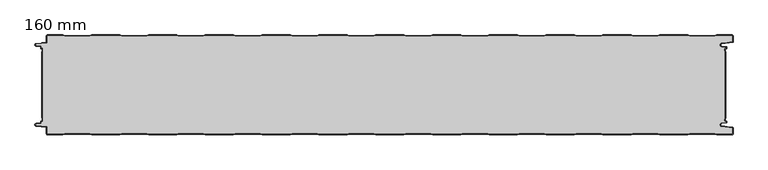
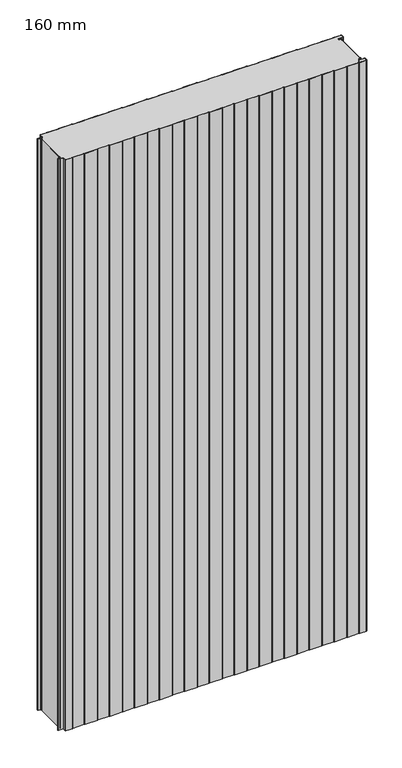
"""IFC4 building model written with IfcOpenShell, lengths in millimetres: plate geometry, HIANSA PANEL - H20.F03.001-PANEL FRIGORÍFICO - PANEL FRIGO - Panel de Muro Cortina : 160 mm."""

from ifc_helpers import new_model, si_unit, point, frame_2d, origin, origin_with_axes, place, context, project, spatial, polyline, circle_curve, trimmed, segment, composite_curve, outline, extrude, source, transform, mapped, element, save


def plate_160_mm_f69a8524(model_context):
    return source(origin(), model_context, "Body", "SweptSolid", [
        extrude(outline(polyline([(555.9827922, -134.0), (555.9827922, -26.0), (556.4221321, -26.6713576), (556.4221321, -133.3286424), (555.9827922, -134.0)])), origin_with_axes(), (0.0, 0.0, 1.0), 2200.0),
        extrude(outline(polyline([(-538.5172078, -26.0), (-538.5172078, -134.0), (-539.1172077, -132.9695032), (-539.1172077, -27.0304968), (-538.5172078, -26.0)])), origin_with_axes(), (0.0, 0.0, 1.0), 2200.0),
        extrude(outline(composite_curve([segment(polyline([(-370.9360691, -1.5), (-411.0983467, -1.5), (-414.0983467, -0.5), (-458.9360691, -0.5), (-461.9360691, -1.5), (-502.0983467, -1.5), (-505.0983467, -0.5), (-529.9172079, -0.5)]), True, "CONTINUOUS"), segment(trimmed(circle_curve(frame_2d((-529.9172079, -1.6)), 1.1), [point((-529.9172079, -0.5))], [point((-531.0172079, -1.6))], True, "CARTESIAN"), True, "CONTINUOUS"), segment(polyline([(-531.0172079, -1.6), (-531.0172079, -11.7987531)]), True, "CONTINUOUS"), segment(trimmed(circle_curve(frame_2d((-532.0172079, -11.7987531)), 1.0), [point((-531.0172079, -11.7987531))], [point((-531.9177042, -12.7937903))], False, "CARTESIAN"), True, "CONTINUOUS"), segment(polyline([(-531.9177042, -12.7937903), (-548.0592062, -14.4079404)]), True, "CONTINUOUS"), segment(trimmed(circle_curve(frame_2d((-547.9000002, -15.9999999)), 1.6), [point((-548.0592062, -14.4079404))], [point((-548.0592062, -17.5920594))], True, "CARTESIAN"), True, "CONTINUOUS"), segment(polyline([(-548.0592062, -17.5920594), (-541.4177042, -18.2562097)]), True, "CONTINUOUS"), segment(trimmed(circle_curve(frame_2d((-541.5172079, -19.2512469)), 1.0), [point((-541.4177042, -18.2562097))], [point((-540.5172079, -19.2512469))], False, "CARTESIAN"), True, "CONTINUOUS"), segment(polyline([(-540.5172079, -19.2512469), (-540.5172079, -21.5), (-539.0172079, -21.5)]), True, "CONTINUOUS"), segment(trimmed(circle_curve(frame_2d((-539.0172079, -22.5)), 1.0), [point((-539.0172079, -21.5))], [point((-538.0172079, -22.5))], False, "CARTESIAN"), True, "CONTINUOUS"), segment(polyline([(-538.0172079, -22.5), (-538.0172079, -25.1412526), (-538.5172079, -26.0), (-538.5172079, -22.0), (-540.0172079, -22.0)]), True, "CONTINUOUS"), segment(trimmed(circle_curve(frame_2d((-540.0172079, -21.0)), 1.0), [point((-540.0172079, -22.0))], [point((-541.0172079, -21.0))], False, "CARTESIAN"), True, "CONTINUOUS"), segment(polyline([(-541.0172079, -21.0), (-541.0172079, -18.7987531), (-548.1089579, -18.0895783)]), True, "CONTINUOUS"), segment(trimmed(circle_curve(frame_2d((-547.9000002, -16.0000002)), 2.1), [point((-548.1089579, -18.0895783))], [point((-548.108958, -13.9104221))], False, "CARTESIAN"), True, "CONTINUOUS"), segment(polyline([(-548.108958, -13.9104221), (-531.5172079, -12.2512469), (-531.5172079, -1.6)]), True, "CONTINUOUS"), segment(trimmed(circle_curve(frame_2d((-529.9172079, -1.6)), 1.6), [point((-531.5172079, -1.6))], [point((-529.9172079, 0.0))], False, "CARTESIAN"), True, "CONTINUOUS"), segment(polyline([(-529.9172079, 0.0), (-505.0172079, 0.0), (-502.0172079, -1.0), (-462.0172079, -1.0), (-459.0172079, 0.0), (-414.0172079, 0.0), (-411.0172079, -1.0), (-371.0172079, -1.0), (-368.0172079, 0.0), (-323.0172079, 0.0), (-320.0172079, -1.0), (-280.0172079, -1.0), (-277.0172079, 0.0), (-232.0172079, 0.0), (-229.0172079, -1.0), (-189.0172079, -1.0), (-186.0172079, 0.0), (-141.0172079, 0.0), (-138.0172079, -1.0), (-98.0172079, -1.0), (-95.0172079, 0.0), (-50.0172079, 0.0), (-47.0172079, -1.0), (-7.0172079, -1.0), (-4.0172079, 0.0), (40.9827921, 0.0), (43.9827921, -1.0), (83.9827921, -1.0), (86.9827921, 0.0), (131.9827921, 0.0), (134.9827921, -1.0), (174.9827921, -1.0), (177.9827921, 0.0), (222.9827921, 0.0), (225.9827921, -1.0), (265.9827921, -1.0), (268.9827921, 0.0), (313.9827921, 0.0), (316.9827921, -1.0), (356.9827921, -1.0), (359.9827921, 0.0), (404.9827921, 0.0), (407.9827921, -1.0), (447.9827921, -1.0), (450.9827921, 0.0), (495.9827921, 0.0), (498.9827921, -1.0), (538.9827921, -1.0), (541.9827921, 0.0), (566.8827921, 0.0)]), True, "CONTINUOUS"), segment(trimmed(circle_curve(frame_2d((566.8827921, -1.6)), 1.6), [point((566.8827921, 0.0))], [point((568.4827921, -1.6))], False, "CARTESIAN"), True, "CONTINUOUS"), segment(polyline([(568.4827921, -1.6), (568.4827921, -11.0950124)]), True, "CONTINUOUS"), segment(trimmed(circle_curve(frame_2d((567.4827921, -11.0950124)), 1.0), [point((568.4827921, -11.0950124))], [point((567.5822958, -12.0900496))], False, "CARTESIAN"), True, "CONTINUOUS"), segment(polyline([(567.5822958, -12.0900496), (550.2837847, -13.8199007)]), True, "CONTINUOUS"), segment(trimmed(circle_curve(frame_2d((550.5873461, -16.0)), 2.2011321), [point((550.2837847, -13.8199007))], [point((550.2837847, -18.1800993))], True, "CARTESIAN"), True, "CONTINUOUS"), segment(polyline([(550.2837847, -18.1800993), (557.5822958, -18.9099504)]), True, "CONTINUOUS"), segment(trimmed(circle_curve(frame_2d((557.4827921, -19.9049876)), 1.0), [point((557.5822958, -18.9099504))], [point((558.4827921, -19.9049876))], False, "CARTESIAN"), True, "CONTINUOUS"), segment(polyline([(558.4827921, -19.9049876), (558.4827921, -21.0)]), True, "CONTINUOUS"), segment(trimmed(circle_curve(frame_2d((557.4827921, -21.0)), 1.0), [point((558.4827921, -21.0))], [point((557.4827921, -22.0))], False, "CARTESIAN"), True, "CONTINUOUS"), segment(polyline([(557.4827921, -22.0), (555.9827921, -22.0), (555.9827921, -26.0), (555.4827921, -25.2359473), (555.4827921, -22.5)]), True, "CONTINUOUS"), segment(trimmed(circle_curve(frame_2d((556.4827921, -22.5)), 1.0), [point((555.4827921, -22.5))], [point((556.4827921, -21.5))], False, "CARTESIAN"), True, "CONTINUOUS"), segment(polyline([(556.4827921, -21.5), (557.9827921, -21.5), (557.9827921, -19.4524938), (550.2340328, -18.6776179)]), True, "CONTINUOUS"), segment(trimmed(circle_curve(frame_2d((550.5859823, -16.0)), 2.7006492), [point((550.2340328, -18.6776179))], [point((550.2340328, -13.3223821))], False, "CARTESIAN"), True, "CONTINUOUS"), segment(polyline([(550.2340328, -13.3223821), (567.9827921, -11.5475062), (567.9827921, -1.6)]), True, "CONTINUOUS"), segment(trimmed(circle_curve(frame_2d((566.8827921, -1.6)), 1.1), [point((567.9827921, -1.6))], [point((566.8827921, -0.5))], True, "CARTESIAN"), True, "CONTINUOUS"), segment(polyline([(566.8827921, -0.5), (542.0639309, -0.5), (539.0639309, -1.5), (498.9016533, -1.5), (495.9016533, -0.5), (451.0639309, -0.5), (448.0639309, -1.5), (407.9016533, -1.5), (404.9016533, -0.5), (360.0639309, -0.5), (357.0639309, -1.5), (316.9016533, -1.5), (313.9016533, -0.5), (269.0639309, -0.5), (266.0639309, -1.5), (225.9016533, -1.5), (222.9016533, -0.5), (178.0639309, -0.5), (175.0639309, -1.5), (134.9016533, -1.5), (131.9016533, -0.5), (87.0639309, -0.5), (84.0639309, -1.5), (43.9016533, -1.5), (40.9016533, -0.5), (-3.9360691, -0.5), (-6.9360691, -1.5), (-47.0983467, -1.5), (-50.0983467, -0.5), (-94.9360691, -0.5), (-97.9360691, -1.5), (-138.0983467, -1.5), (-141.0983467, -0.5), (-185.9360691, -0.5), (-188.9360691, -1.5), (-229.0983467, -1.5), (-232.0983467, -0.5), (-276.9360691, -0.5), (-279.9360691, -1.5), (-320.0983467, -1.5), (-323.0983467, -0.5), (-367.9360691, -0.5), (-370.9360691, -1.5)]), True, "CONTINUOUS")], self_intersect=False)), origin_with_axes(), (0.0, 0.0, 1.0), 2200.0),
        extrude(outline(composite_curve([segment(polyline([(-370.9360691, -158.5), (-367.9360691, -159.5), (-323.0983467, -159.5), (-320.0983467, -158.5), (-279.9360691, -158.5), (-276.9360691, -159.5), (-232.0983467, -159.5), (-229.0983467, -158.5), (-188.9360691, -158.5), (-185.9360691, -159.5), (-141.0983467, -159.5), (-138.0983467, -158.5), (-97.9360691, -158.5), (-94.9360691, -159.5), (-50.0983467, -159.5), (-47.0983467, -158.5), (-6.9360691, -158.5), (-3.9360691, -159.5), (40.9016533, -159.5), (43.9016533, -158.5), (84.0639309, -158.5), (87.0639309, -159.5), (131.9016533, -159.5), (134.9016533, -158.5), (175.0639309, -158.5), (178.0639309, -159.5), (222.9016533, -159.5), (225.9016533, -158.5), (266.0639309, -158.5), (269.0639309, -159.5), (313.9016533, -159.5), (316.9016533, -158.5), (357.0639309, -158.5), (360.0639309, -159.5), (404.9016533, -159.5), (407.9016533, -158.5), (448.0639309, -158.5), (451.0639309, -159.5), (495.9016533, -159.5), (498.9016533, -158.5), (539.0639309, -158.5), (542.0639309, -159.5), (566.8827921, -159.5)]), True, "CONTINUOUS"), segment(trimmed(circle_curve(frame_2d((566.8827921, -158.4)), 1.1), [point((566.8827921, -159.5))], [point((567.9827921, -158.4))], True, "CARTESIAN"), True, "CONTINUOUS"), segment(polyline([(567.9827921, -158.4), (567.9827921, -148.4524938), (550.2340328, -146.6776179)]), True, "CONTINUOUS"), segment(trimmed(circle_curve(frame_2d((550.5859823, -144.0)), 2.7006492), [point((550.2340328, -146.6776179))], [point((550.2340328, -141.3223821))], False, "CARTESIAN"), True, "CONTINUOUS"), segment(polyline([(550.2340328, -141.3223821), (557.9827921, -140.5475062), (557.9827921, -138.5), (556.4827921, -138.5)]), True, "CONTINUOUS"), segment(trimmed(circle_curve(frame_2d((556.4827921, -137.5)), 1.0), [point((556.4827921, -138.5))], [point((555.4827921, -137.5))], False, "CARTESIAN"), True, "CONTINUOUS"), segment(polyline([(555.4827921, -137.5), (555.4827921, -134.7640527), (555.9827921, -134.0), (555.9827921, -138.0), (557.4827921, -138.0)]), True, "CONTINUOUS"), segment(trimmed(circle_curve(frame_2d((557.4827921, -139.0)), 1.0), [point((557.4827921, -138.0))], [point((558.4827921, -139.0))], False, "CARTESIAN"), True, "CONTINUOUS"), segment(polyline([(558.4827921, -139.0), (558.4827921, -140.0950124)]), True, "CONTINUOUS"), segment(trimmed(circle_curve(frame_2d((557.4827921, -140.0950124)), 1.0), [point((558.4827921, -140.0950124))], [point((557.5822958, -141.0900496))], False, "CARTESIAN"), True, "CONTINUOUS"), segment(polyline([(557.5822958, -141.0900496), (550.2837847, -141.8199007)]), True, "CONTINUOUS"), segment(trimmed(circle_curve(frame_2d((550.5873461, -144.0)), 2.2011321), [point((550.2837847, -141.8199007))], [point((550.2837847, -146.1800993))], True, "CARTESIAN"), True, "CONTINUOUS"), segment(polyline([(550.2837847, -146.1800993), (567.5822958, -147.9099504)]), True, "CONTINUOUS"), segment(trimmed(circle_curve(frame_2d((567.4827921, -148.9049876)), 1.0), [point((567.5822958, -147.9099504))], [point((568.4827921, -148.9049876))], False, "CARTESIAN"), True, "CONTINUOUS"), segment(polyline([(568.4827921, -148.9049876), (568.4827921, -158.4)]), True, "CONTINUOUS"), segment(trimmed(circle_curve(frame_2d((566.8827921, -158.4)), 1.6), [point((568.4827921, -158.4))], [point((566.8827921, -160.0))], False, "CARTESIAN"), True, "CONTINUOUS"), segment(polyline([(566.8827921, -160.0), (541.9827921, -160.0), (538.9827921, -159.0), (498.9827921, -159.0), (495.9827921, -160.0), (450.9827921, -160.0), (447.9827921, -159.0), (407.9827921, -159.0), (404.9827921, -160.0), (359.9827921, -160.0), (356.9827921, -159.0), (316.9827921, -159.0), (313.9827921, -160.0), (268.9827921, -160.0), (265.9827921, -159.0), (225.9827921, -159.0), (222.9827921, -160.0), (177.9827921, -160.0), (174.9827921, -159.0), (134.9827921, -159.0), (131.9827921, -160.0), (86.9827921, -160.0), (83.9827921, -159.0), (43.9827921, -159.0), (40.9827921, -160.0), (-4.0172079, -160.0), (-7.0172079, -159.0), (-47.0172079, -159.0), (-50.0172079, -160.0), (-95.0172079, -160.0), (-98.0172079, -159.0), (-138.0172079, -159.0), (-141.0172079, -160.0), (-186.0172079, -160.0), (-189.0172079, -159.0), (-229.0172079, -159.0), (-232.0172079, -160.0), (-277.0172079, -160.0), (-280.0172079, -159.0), (-320.0172079, -159.0), (-323.0172079, -160.0), (-368.0172079, -160.0), (-371.0172079, -159.0), (-411.0172079, -159.0), (-414.0172079, -160.0), (-459.0172079, -160.0), (-462.0172079, -159.0), (-502.0172079, -159.0), (-505.0172079, -160.0), (-529.9172079, -160.0)]), True, "CONTINUOUS"), segment(trimmed(circle_curve(frame_2d((-529.9172079, -158.4)), 1.6), [point((-529.9172079, -160.0))], [point((-531.5172079, -158.4))], False, "CARTESIAN"), True, "CONTINUOUS"), segment(polyline([(-531.5172079, -158.4), (-531.5172079, -147.7487531), (-548.108958, -146.0895779)]), True, "CONTINUOUS"), segment(trimmed(circle_curve(frame_2d((-547.9000002, -143.9999998)), 2.1), [point((-548.108958, -146.0895779))], [point((-548.1089579, -141.9104217))], False, "CARTESIAN"), True, "CONTINUOUS"), segment(polyline([(-548.1089579, -141.9104217), (-541.0172079, -141.2012469), (-541.0172079, -139.0)]), True, "CONTINUOUS"), segment(trimmed(circle_curve(frame_2d((-540.0172079, -139.0)), 1.0), [point((-541.0172079, -139.0))], [point((-540.0172079, -138.0))], False, "CARTESIAN"), True, "CONTINUOUS"), segment(polyline([(-540.0172079, -138.0), (-538.5172079, -138.0), (-538.5172079, -134.0), (-538.0172079, -134.8587474), (-538.0172079, -137.5)]), True, "CONTINUOUS"), segment(trimmed(circle_curve(frame_2d((-539.0172079, -137.5)), 1.0), [point((-538.0172079, -137.5))], [point((-539.0172079, -138.5))], False, "CARTESIAN"), True, "CONTINUOUS"), segment(polyline([(-539.0172079, -138.5), (-540.5172079, -138.5), (-540.5172079, -140.7487531)]), True, "CONTINUOUS"), segment(trimmed(circle_curve(frame_2d((-541.5172079, -140.7487531)), 1.0), [point((-540.5172079, -140.7487531))], [point((-541.4177042, -141.7437903))], False, "CARTESIAN"), True, "CONTINUOUS"), segment(polyline([(-541.4177042, -141.7437903), (-548.0592062, -142.4079406)]), True, "CONTINUOUS"), segment(trimmed(circle_curve(frame_2d((-547.9000002, -144.0000001)), 1.6), [point((-548.0592062, -142.4079406))], [point((-548.0592062, -145.5920596))], True, "CARTESIAN"), True, "CONTINUOUS"), segment(polyline([(-548.0592062, -145.5920596), (-531.9177042, -147.2062097)]), True, "CONTINUOUS"), segment(trimmed(circle_curve(frame_2d((-532.0172079, -148.2012469)), 1.0), [point((-531.9177042, -147.2062097))], [point((-531.0172079, -148.2012469))], False, "CARTESIAN"), True, "CONTINUOUS"), segment(polyline([(-531.0172079, -148.2012469), (-531.0172079, -158.4)]), True, "CONTINUOUS"), segment(trimmed(circle_curve(frame_2d((-529.9172079, -158.4)), 1.1), [point((-531.0172079, -158.4))], [point((-529.9172079, -159.5))], True, "CARTESIAN"), True, "CONTINUOUS"), segment(polyline([(-529.9172079, -159.5), (-505.0983467, -159.5), (-502.0983467, -158.5), (-461.9360691, -158.5), (-458.9360691, -159.5), (-414.0983467, -159.5), (-411.0983467, -158.5), (-370.9360691, -158.5)]), True, "CONTINUOUS")], self_intersect=False)), origin_with_axes(), (0.0, 0.0, 1.0), 2200.0),
        extrude(outline(composite_curve([segment(polyline([(-461.936069, -1.5), (-458.936069, -0.5), (-414.0983467, -0.5), (-411.0983467, -1.5), (-370.936069, -1.5), (-367.936069, -0.5), (-323.0983467, -0.5), (-320.0983467, -1.5), (-279.936069, -1.5), (-276.936069, -0.5), (-232.0983467, -0.5), (-229.0983467, -1.5), (-188.936069, -1.5), (-185.936069, -0.5), (-141.0983467, -0.5), (-138.0983467, -1.5), (-97.936069, -1.5), (-94.936069, -0.5), (-50.0983467, -0.5), (-47.0983467, -1.5), (-6.936069, -1.5), (-3.936069, -0.5), (40.9016533, -0.5), (43.9016533, -1.5), (84.063931, -1.5), (87.063931, -0.5), (131.9016533, -0.5), (134.9016533, -1.5), (175.063931, -1.5), (178.063931, -0.5), (222.9016533, -0.5), (225.9016533, -1.5), (266.063931, -1.5), (269.063931, -0.5), (313.9016533, -0.5), (316.9016533, -1.5), (357.063931, -1.5), (360.063931, -0.5), (404.9016533, -0.5), (407.9016533, -1.5), (448.063931, -1.5), (451.063931, -0.5), (495.9016533, -0.5), (498.9016533, -1.5), (539.063931, -1.5), (542.063931, -0.5), (566.8827921, -0.5)]), True, "CONTINUOUS"), segment(trimmed(circle_curve(frame_2d((566.8827921, -1.6)), 1.1), [point((566.8827921, -0.5))], [point((567.9827921, -1.6))], False, "CARTESIAN"), True, "CONTINUOUS"), segment(polyline([(567.9827921, -1.6), (567.9827921, -11.5475062), (550.2340328, -13.3223821)]), True, "CONTINUOUS"), segment(trimmed(circle_curve(frame_2d((550.5859824, -16.0)), 2.7006492), [point((550.2340328, -13.3223821))], [point((550.2340328, -18.6776179))], True, "CARTESIAN"), True, "CONTINUOUS"), segment(polyline([(550.2340328, -18.6776179), (557.9827921, -19.4524938), (557.9827921, -21.5), (556.4827921, -21.5)]), True, "CONTINUOUS"), segment(trimmed(circle_curve(frame_2d((556.4827921, -22.5)), 1.0), [point((556.4827921, -21.5))], [point((555.4827921, -22.5))], True, "CARTESIAN"), True, "CONTINUOUS"), segment(polyline([(555.4827921, -22.5), (555.4827921, -25.2359473), (555.9827921, -26.0), (555.9827921, -134.0), (555.4827921, -134.7640527), (555.4827921, -137.5)]), True, "CONTINUOUS"), segment(trimmed(circle_curve(frame_2d((556.4827921, -137.5)), 1.0), [point((555.4827921, -137.5))], [point((556.4827921, -138.5))], True, "CARTESIAN"), True, "CONTINUOUS"), segment(polyline([(556.4827921, -138.5), (557.9827921, -138.5), (557.9827921, -140.5475062), (550.2340328, -141.3223821)]), True, "CONTINUOUS"), segment(trimmed(circle_curve(frame_2d((550.5859824, -144.0)), 2.7006492), [point((550.2340328, -141.3223821))], [point((550.2340328, -146.6776179))], True, "CARTESIAN"), True, "CONTINUOUS"), segment(polyline([(550.2340328, -146.6776179), (567.9827921, -148.4524938), (567.9827921, -158.4)]), True, "CONTINUOUS"), segment(trimmed(circle_curve(frame_2d((566.8827921, -158.4)), 1.1), [point((567.9827921, -158.4))], [point((566.8827921, -159.5))], False, "CARTESIAN"), True, "CONTINUOUS"), segment(polyline([(566.8827921, -159.5), (542.063931, -159.5), (539.063931, -158.5), (498.9016533, -158.5), (495.9016533, -159.5), (451.063931, -159.5), (448.063931, -158.5), (407.9016533, -158.5), (404.9016533, -159.5), (360.063931, -159.5), (357.063931, -158.5), (316.9016533, -158.5), (313.9016533, -159.5), (269.063931, -159.5), (266.063931, -158.5), (225.9016533, -158.5), (222.9016533, -159.5), (178.063931, -159.5), (175.063931, -158.5), (134.9016533, -158.5), (131.9016533, -159.5), (87.063931, -159.5), (84.063931, -158.5), (43.9016533, -158.5), (40.9016533, -159.5), (-3.936069, -159.5), (-6.936069, -158.5), (-47.0983467, -158.5), (-50.0983467, -159.5), (-94.936069, -159.5), (-97.936069, -158.5), (-138.0983467, -158.5), (-141.0983467, -159.5), (-185.936069, -159.5), (-188.936069, -158.5), (-229.0983467, -158.5), (-232.0983467, -159.5), (-276.936069, -159.5), (-279.936069, -158.5), (-320.0983467, -158.5), (-323.0983467, -159.5), (-367.936069, -159.5), (-370.936069, -158.5), (-411.0983467, -158.5), (-414.0983467, -159.5), (-458.936069, -159.5), (-461.936069, -158.5), (-502.0983467, -158.5), (-505.0983467, -159.5), (-529.9172079, -159.5)]), True, "CONTINUOUS"), segment(trimmed(circle_curve(frame_2d((-529.9172079, -158.4)), 1.1), [point((-529.9172079, -159.5))], [point((-531.0172079, -158.4))], False, "CARTESIAN"), True, "CONTINUOUS"), segment(polyline([(-531.0172079, -158.4), (-531.0172079, -148.2012469)]), True, "CONTINUOUS"), segment(trimmed(circle_curve(frame_2d((-532.0172079, -148.2012469)), 1.0), [point((-531.0172079, -148.2012469))], [point((-531.9177042, -147.2062097))], True, "CARTESIAN"), True, "CONTINUOUS"), segment(polyline([(-531.9177042, -147.2062097), (-548.0592062, -145.5920596)]), True, "CONTINUOUS"), segment(trimmed(circle_curve(frame_2d((-547.9000002, -144.0000001)), 1.6), [point((-548.0592062, -145.5920596))], [point((-548.0592062, -142.4079406))], False, "CARTESIAN"), True, "CONTINUOUS"), segment(polyline([(-548.0592062, -142.4079406), (-541.4177041, -141.7437903)]), True, "CONTINUOUS"), segment(trimmed(circle_curve(frame_2d((-541.5172079, -140.7487531)), 1.0), [point((-541.4177041, -141.7437903))], [point((-540.5172079, -140.7487531))], True, "CARTESIAN"), True, "CONTINUOUS"), segment(polyline([(-540.5172079, -140.7487531), (-540.5172079, -138.5), (-539.0172079, -138.5)]), True, "CONTINUOUS"), segment(trimmed(circle_curve(frame_2d((-539.0172079, -137.5)), 1.0), [point((-539.0172079, -138.5))], [point((-538.0172079, -137.5))], True, "CARTESIAN"), True, "CONTINUOUS"), segment(polyline([(-538.0172079, -137.5), (-538.0172079, -134.8587474), (-538.5172079, -134.0), (-538.5172079, -26.0), (-538.0172079, -25.1412526), (-538.0172079, -22.5)]), True, "CONTINUOUS"), segment(trimmed(circle_curve(frame_2d((-539.0172079, -22.5)), 1.0), [point((-538.0172079, -22.5))], [point((-539.0172079, -21.5))], True, "CARTESIAN"), True, "CONTINUOUS"), segment(polyline([(-539.0172079, -21.5), (-540.5172079, -21.5), (-540.5172079, -19.2512469)]), True, "CONTINUOUS"), segment(trimmed(circle_curve(frame_2d((-541.5172079, -19.2512469)), 1.0), [point((-540.5172079, -19.2512469))], [point((-541.4177041, -18.2562097))], True, "CARTESIAN"), True, "CONTINUOUS"), segment(polyline([(-541.4177041, -18.2562097), (-548.0592062, -17.5920594)]), True, "CONTINUOUS"), segment(trimmed(circle_curve(frame_2d((-547.9000003, -15.9999999)), 1.6), [point((-548.0592062, -17.5920594))], [point((-548.0592062, -14.4079404))], False, "CARTESIAN"), True, "CONTINUOUS"), segment(polyline([(-548.0592062, -14.4079404), (-531.9177042, -12.7937903)]), True, "CONTINUOUS"), segment(trimmed(circle_curve(frame_2d((-532.0172079, -11.7987531)), 1.0), [point((-531.9177042, -12.7937903))], [point((-531.0172079, -11.7987531))], True, "CARTESIAN"), True, "CONTINUOUS"), segment(polyline([(-531.0172079, -11.7987531), (-531.0172079, -1.6)]), True, "CONTINUOUS"), segment(trimmed(circle_curve(frame_2d((-529.9172079, -1.6)), 1.1), [point((-531.0172079, -1.6))], [point((-529.9172079, -0.5))], False, "CARTESIAN"), True, "CONTINUOUS"), segment(polyline([(-529.9172079, -0.5), (-505.0983467, -0.5), (-502.0983467, -1.5), (-461.936069, -1.5)]), True, "CONTINUOUS")], self_intersect=False)), origin_with_axes(), (0.0, 0.0, 1.0), 2200.0),
    ])


if __name__ == "__main__":
    model = new_model("IFC4")
    model_context = context("Model", 3, world=origin())
    ifc_project = project(units=[si_unit("LENGTHUNIT", "METRE", prefix="MILLI")], contexts=[model_context])
    site = spatial("IfcSite", under=ifc_project)
    building = spatial("IfcBuilding", under=site)
    placement = place(None, origin())
    plate_160_mm_shape = plate_160_mm_f69a8524(model_context)
    element("IfcPlate", 1, ObjectType="HIANSA PANEL - H20.F03.001-PANEL FRIGORÍFICO - PANEL FRIGO - Panel de Muro Cortina : 160 mm", at=placement, inside=building, context=model_context, shape_type="MappedRepresentation", body=[
        mapped(plate_160_mm_shape, transform((0.0, 0.0, 0.0), x_axis=(1.0, 0.0, 0.0), y_axis=(0.0, 1.0, 0.0), z_axis=(0.0, 0.0, 1.0))),
    ])
    save(model, "model.ifc")
